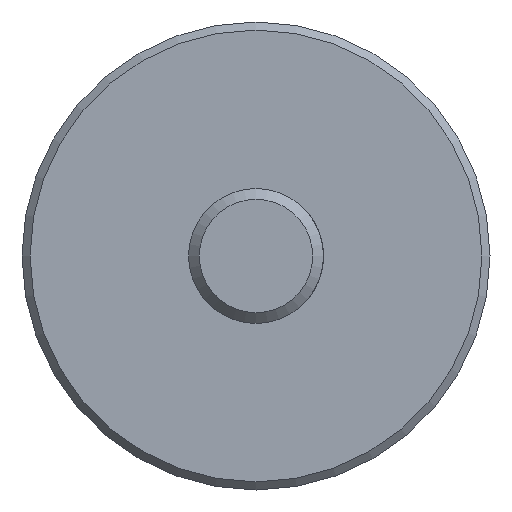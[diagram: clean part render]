
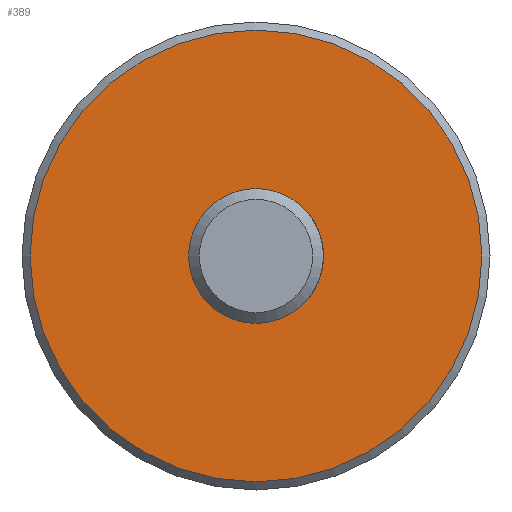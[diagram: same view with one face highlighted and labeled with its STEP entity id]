
A CAD part, front view. The second image highlights one B-rep face of the part: STEP entity #389.
In plain terms, the highlighted planar face has unit normal (0, -1, 0).
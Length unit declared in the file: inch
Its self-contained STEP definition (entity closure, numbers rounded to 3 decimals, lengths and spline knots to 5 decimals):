
#33 = CARTESIAN_POINT ( 'NONE',  ( 0., 3.28, 0.375 ) ) ;
#44 = CARTESIAN_POINT ( 'NONE',  ( 0., 3.28, 1.255 ) ) ;
#46 = AXIS2_PLACEMENT_3D ( 'NONE', #50, #223, #176 ) ;
#50 = CARTESIAN_POINT ( 'NONE',  ( 0., 3.28, 0. ) ) ;
#61 = DIRECTION ( 'NONE',  ( 0., 0., 1. ) ) ;
#77 = PLANE ( 'NONE',  #538 ) ;
#96 = CARTESIAN_POINT ( 'NONE',  ( 0.375, 3.28, 0. ) ) ;
#104 = EDGE_CURVE ( 'NONE', #566, #566, #245, .T. ) ;
#168 = FACE_BOUND ( 'NONE', #511, .T. ) ;
#176 = DIRECTION ( 'NONE',  ( 0., 0., 1. ) ) ;
#223 = DIRECTION ( 'NONE',  ( 0., 1., 0. ) ) ;
#229 = AXIS2_PLACEMENT_3D ( 'NONE', #534, #256, #359 ) ;
#245 = CIRCLE ( 'NONE', #229, 0.375 ) ;
#256 = DIRECTION ( 'NONE',  ( 0., 1., 0. ) ) ;
#331 = ORIENTED_EDGE ( 'NONE', *, *, #104, .T. ) ;
#359 = DIRECTION ( 'NONE',  ( 0., 0., 1. ) ) ;
#367 = EDGE_LOOP ( 'NONE', ( #475 ) ) ;
#389 = ADVANCED_FACE ( 'NONE', ( #396, #168 ), #77, .F. ) ;
#396 = FACE_OUTER_BOUND ( 'NONE', #367, .T. ) ;
#442 = VERTEX_POINT ( 'NONE', #44 ) ;
#469 = EDGE_CURVE ( 'NONE', #442, #442, #505, .T. ) ;
#475 = ORIENTED_EDGE ( 'NONE', *, *, #469, .F. ) ;
#490 = DIRECTION ( 'NONE',  ( 0., 1., 0. ) ) ;
#505 = CIRCLE ( 'NONE', #46, 1.255 ) ;
#511 = EDGE_LOOP ( 'NONE', ( #331 ) ) ;
#534 = CARTESIAN_POINT ( 'NONE',  ( 0., 3.28, 0. ) ) ;
#538 = AXIS2_PLACEMENT_3D ( 'NONE', #96, #490, #61 ) ;
#566 = VERTEX_POINT ( 'NONE', #33 ) ;
